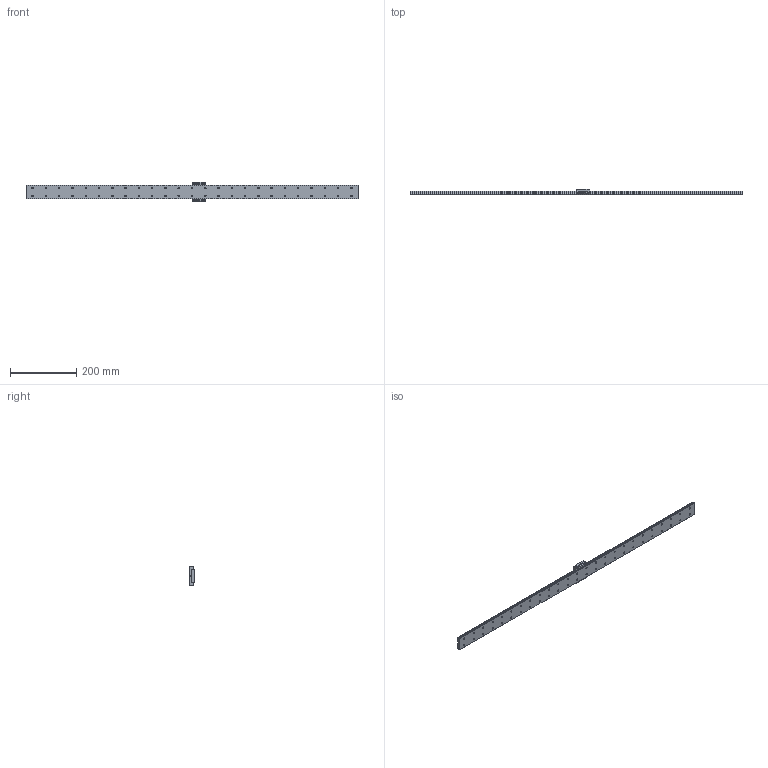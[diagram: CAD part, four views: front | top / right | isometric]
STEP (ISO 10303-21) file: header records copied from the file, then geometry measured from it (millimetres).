
FILE_DESCRIPTION(/* description */ ('STEP AP214'),/* implementation_level */ '2;1');
FILE_NAME(/* name */ 'SRS15WSSS-1000LM_G20_0_500_0_0_0_1',/* time_stamp */ '2024-01-22T14:20:42+01:00',/* author */ ('License CC BY-ND 4.0'),/* organization */ ('CADENAS'),/* preprocessor_version */ 'ST-DEVELOPER v19.3',/* originating_system */ 'PARTsolutions',/* authorisation */ ' ');
FILE_SCHEMA (('AUTOMOTIVE_DESIGN {1 0 10303 214 3 1 1}'));
Length unit declared in the file: millimetre
Products named in the file (3): SRS15WSSS-1000LM_G20_0_500_0_0_0_1; SRS15WS100020 Track; SRS15WSSS1 Slider
Assembly tree (2 placements, depth 2):
  SRS15WSSS-1000LM_G20_0_500_0_0_0_1
    SRS15WS100020 Track
    SRS15WSSS1 Slider
Bounding box: 1000 x 16 x 60 mm (x, y, z)
Volume: 388028.2 mm3; surface area: 118334.4 mm2
Topology: 2 solids, 2 shells, 302 faces, 716 edges, 466 vertices
Faces by surface type: plane 165, cylinder 133, cone 4
Full cylindrical faces by diameter (mm): 3 x2, 3.242 x2, 4.5 x50, 8 x50
Entity records: 8455 total; most frequent: DIRECTION 1486, CARTESIAN_POINT 1373, ORIENTED_EDGE 1208, EDGE_CURVE 604, AXIS2_PLACEMENT_3D 577, FACE_BOUND 564, EDGE_LOOP 562, VERTEX_POINT 464
